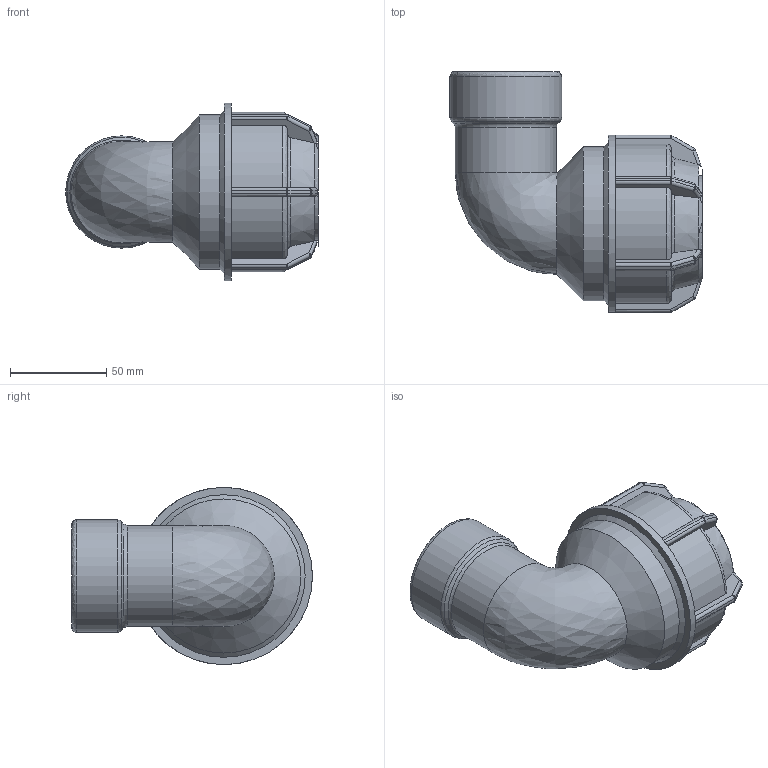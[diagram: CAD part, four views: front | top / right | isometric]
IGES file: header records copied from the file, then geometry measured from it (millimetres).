
Global section: file name: 141500050015.ipt; native system: Autodesk Inventor 2015; preprocessor: unknown; author: KIM; date: 20180409.131202; units: millimetre
Bounding box: 131.15 x 125 x 92 mm (x, y, z)
Volume: 314013.2 mm3; surface area: 68695 mm2
Topology: 1 solids, 1 shells, 213 faces, 509 edges, 299 vertices
Faces by surface type: plane 98, cylinder 58, revolution 24, sphere 24, cone 9
Full cylindrical faces by diameter (mm): 52.469 x1, 58.298 x1, 80 x1, 92 x1
